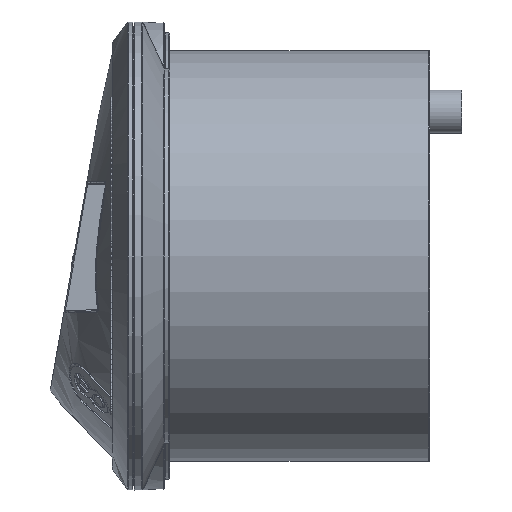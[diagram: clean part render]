
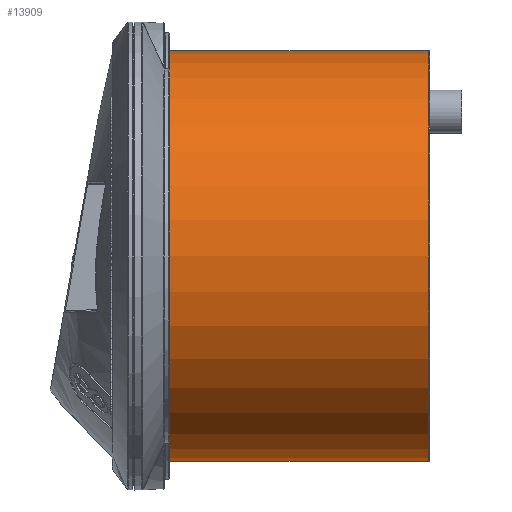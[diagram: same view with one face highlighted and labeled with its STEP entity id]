
A CAD part, left-side view. The second image highlights one B-rep face of the part: STEP entity #13909.
In plain terms, the highlighted cylindrical face has radius 39.5 mm (diameter 79 mm), a full revolution.
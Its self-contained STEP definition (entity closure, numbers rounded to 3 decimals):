
#13855=CARTESIAN_POINT('',(0.0,-60.85,-39.5));
#13856=VERTEX_POINT('',#13855);
#13857=CARTESIAN_POINT('',(0.0,-60.85,0.));
#13858=DIRECTION('',(0.0,-1.0,0.0));
#13859=DIRECTION('',(0.0,0.0,-1.0));
#13860=AXIS2_PLACEMENT_3D('',#13857,#13858,#13859);
#13861=CIRCLE('',#13860,39.5);
#13862=EDGE_CURVE('',#13856,#13856,#13861,.T.);
#13890=CARTESIAN_POINT('',(0.0,-58.5,0.));
#13891=DIRECTION('',(0.0,1.0,0.0));
#13892=DIRECTION('',(0.0,0.0,1.0));
#13893=AXIS2_PLACEMENT_3D('',#13890,#13891,#13892);
#13894=CYLINDRICAL_SURFACE('',#13893,39.5);
#13895=CARTESIAN_POINT('',(0.0,-11.05,39.5));
#13896=VERTEX_POINT('',#13895);
#13897=CARTESIAN_POINT('',(0.0,-11.05,0.));
#13898=DIRECTION('',(0.0,-1.0,0.0));
#13899=DIRECTION('',(0.0,0.0,1.0));
#13900=AXIS2_PLACEMENT_3D('',#13897,#13898,#13899);
#13901=CIRCLE('',#13900,39.5);
#13902=EDGE_CURVE('',#13896,#13896,#13901,.T.);
#13903=ORIENTED_EDGE('',*,*,#13902,.T.);
#13904=EDGE_LOOP('',(#13903));
#13905=FACE_OUTER_BOUND('',#13904,.T.);
#13906=ORIENTED_EDGE('',*,*,#13862,.F.);
#13907=EDGE_LOOP('',(#13906));
#13908=FACE_BOUND('',#13907,.T.);
#13909=ADVANCED_FACE('',(#13905,#13908),#13894,.T.);
